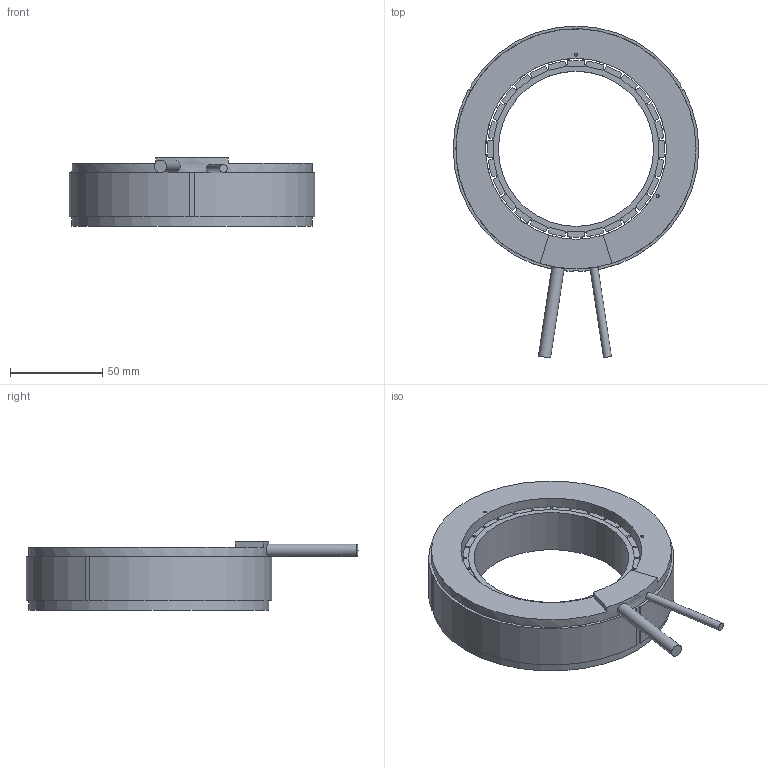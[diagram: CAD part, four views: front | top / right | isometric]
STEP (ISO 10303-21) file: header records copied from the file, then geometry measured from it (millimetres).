
FILE_DESCRIPTION(/* description */ ('Unknown'),/* implementation_level */ '2;1');
FILE_NAME(/* name */ 'Torque_QTR_133_34_N_Kit_CAD_180906',/* time_stamp */ '2018-09-06T16:55:45+02:00',/* author */ ('Unknown'),/* organization */ ('Unknown'),/* preprocessor_version */ 'ST-DEVELOPER v16.7',/* originating_system */ 'DEX',/* authorisation */ $);
FILE_SCHEMA (('AUTOMOTIVE_DESIGN {1 0 10303 214 3 1 1}'));
Length unit declared in the file: millimetre
Products named in the file (1): Torque_QTR_133_34_N_Kit_CAD_180906
Bounding box: 132.99 x 179.72 x 37 mm (x, y, z)
Volume: 252585.7 mm3; surface area: 59093.7 mm2
Topology: 2 solids, 2 shells, 369 faces, 976 edges, 614 vertices
Faces by surface type: plane 300, cylinder 67, cone 2
Full cylindrical faces by diameter (mm): 1.65 x2, 4.3 x1, 6.7 x1, 84 x1, 97.9 x1, 130 x2
Entity records: 11109 total; most frequent: CARTESIAN_POINT 1956, ORIENTED_EDGE 1916, DIRECTION 1830, EDGE_CURVE 958, LINE 822, VECTOR 822, VERTEX_POINT 608, AXIS2_PLACEMENT_3D 504
